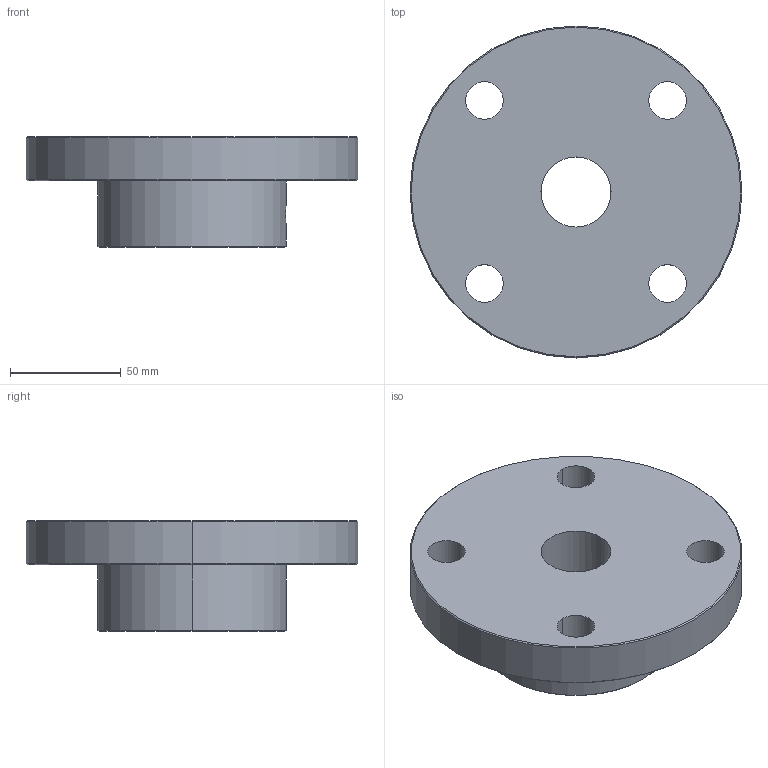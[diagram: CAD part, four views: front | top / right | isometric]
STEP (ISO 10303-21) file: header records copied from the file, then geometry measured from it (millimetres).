
FILE_DESCRIPTION (( 'STEP AP203' ), '1' );
FILE_NAME ('MJ5-FP.STEP', '2024-01-15T15:27:41', ( '' ), ( '' ), 'SwSTEP 2.0', 'SolidWorks 2022', '' );
FILE_SCHEMA (( 'CONFIG_CONTROL_DESIGN' ));
Length unit declared in the file: millimetre
Products named in the file (1): MJ5-FP
Bounding box: 150 x 150 x 50 mm (x, y, z)
Volume: 464493.5 mm3; surface area: 58875 mm2
Topology: 1 solids, 1 shells, 25 faces, 66 edges, 42 vertices
Faces by surface type: cylinder 16, cone 6, plane 3
Entity records: 971 total; most frequent: CARTESIAN_POINT 234, DIRECTION 144, ORIENTED_EDGE 132, EDGE_CURVE 66, AXIS2_PLACEMENT_3D 60, VERTEX_POINT 42, EDGE_LOOP 36, CIRCLE 34
